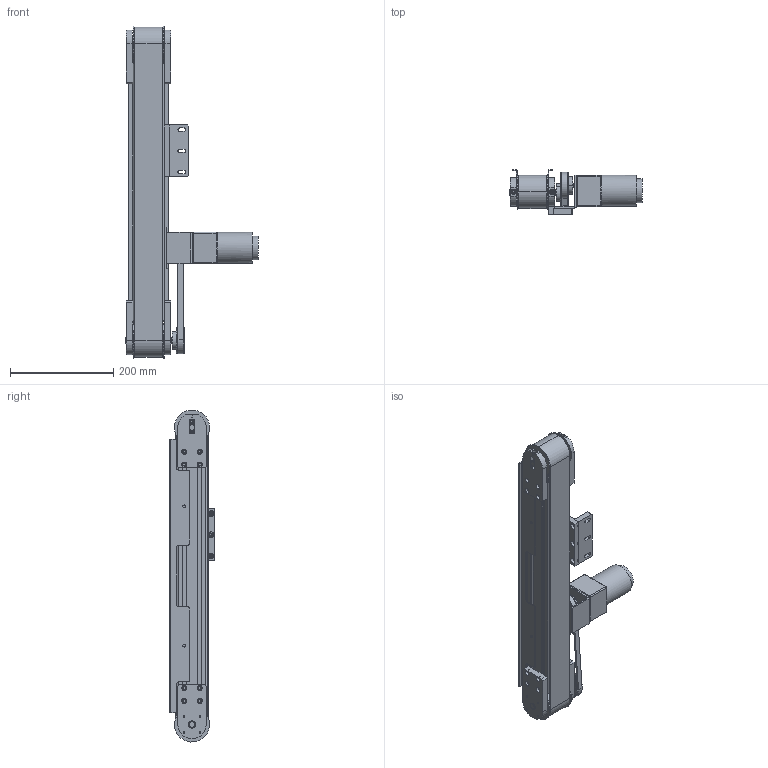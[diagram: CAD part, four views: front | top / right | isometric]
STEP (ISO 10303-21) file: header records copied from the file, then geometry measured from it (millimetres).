
FILE_DESCRIPTION(/* description */ (''),/* implementation_level */ '2;1');
FILE_NAME(/* name */ 'beltconveyor_a094_w60_l640.stp',/* time_stamp */ '2025-01-04T08:39:36+08:00',/* author */ (''),/* organization */ (''),/* preprocessor_version */ 'ST-DEVELOPER v16.7',/* originating_system */ 'SIEMENS PLM Software NX 12.0',/* authorisation */ '');
FILE_SCHEMA (('AUTOMOTIVE_DESIGN { 1 0 10303 214 3 1 1 1 }'));
Products named in the file (18): 同步带HTD501-3M; PVC输送带; JR-PL-XS-03主动轮; JR-PL-XS-04从动轮; JR-PL-XS-07从动轴心; 外卡12; JR-PL-XS-10电机固定底座; JR-PL-XS-01固定侧板; HM-8-6060工业铝型材[HM-8-6060工业铝型材]
_HM-8-6060工业铝型材; JR-PL-XS-08挡料板; JR-PL-XS-09挡料板; JR-PL-XS-02固定侧板; 轴承6001; 同步带轮-3M带凸肩型 TAB3M TSB3M[TAB3M
-48-100-H8]_TAB3M-48-100-H8; 电机21K6RGN-C,减速机2GN,20K; JR-PL-XS-05支撑板; JR-PL-XS-06固定板; beltconveyor_a094_w60_l640
Assembly tree (24 placements, depth 2):
  beltconveyor_a094_w60_l640
    JR-PL-XS-06固定板
    JR-PL-XS-05支撑板
    电机21K6RGN-C,减速机2GN,20K
    同步带轮-3M带凸肩型 TAB3M TSB3M[TAB3M
-48-100-H8]_TAB3M-48-100-H8  x2
    轴承6001  x4
    JR-PL-XS-02固定侧板  x2
    JR-PL-XS-09挡料板
    JR-PL-XS-08挡料板
    HM-8-6060工业铝型材[HM-8-6060工业铝型材]
_HM-8-6060工业铝型材
    JR-PL-XS-01固定侧板  x2
    JR-PL-XS-10电机固定底座
    外卡12  x2
    JR-PL-XS-07从动轴心
    JR-PL-XS-04从动轮
    JR-PL-XS-03主动轮
    PVC输送带
    同步带HTD501-3M
Bounding box: 256.5 x 86 x 643.85 mm (x, y, z)
Volume: 1912201.3 mm3; surface area: 868515.5 mm2
Topology: 61 solids, 61 shells, 2526 faces, 6967 edges, 4617 vertices
Faces by surface type: cylinder 1296, plane 710, extrusion 369, torus 80, cone 59, sphere 8, bspline 4
Full cylindrical faces by diameter (mm): 5 x4, 8 x1, 24 x1, 46 x1, 60 x1
Entity records: 63885 total; most frequent: CARTESIAN_POINT 18519, ORIENTED_EDGE 9876, DIRECTION 8146, EDGE_CURVE 4938, VERTEX_POINT 3287, AXIS2_PLACEMENT_3D 2815, VECTOR 2516, LINE 2147
